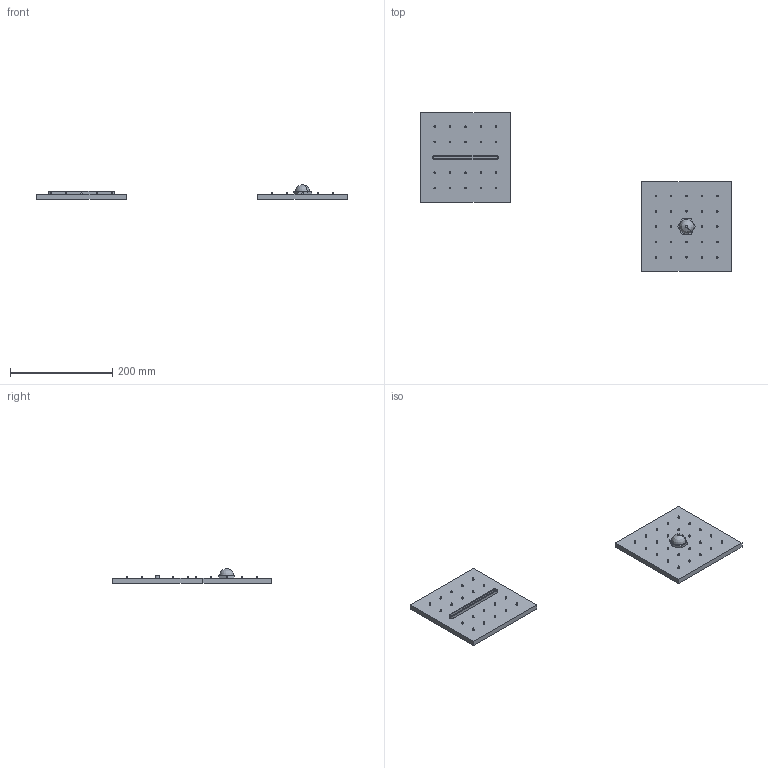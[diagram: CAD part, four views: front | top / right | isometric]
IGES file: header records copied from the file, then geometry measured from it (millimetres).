
Global section: file name: D:\Desktop\GIOVANNI\SCHEDE PRODOTTO\SOFFIONI\MULTISHOWER\3D\MOMA DESIGN_SOFFIONI_MULTI SHOWER_OPTIONAL.igs; native system: Rhinoceros ( Jan 17 2018 ); preprocessor: Trout Lake IGES 012 Jan 17 2018; date: 230523.153449; units: millimetre
Bounding box: 607.01 x 310.4 x 28.68 mm (x, y, z)
Surface area: 147100.1 mm2 (no closed solid volume)
Topology: 0 solids, 0 shells, 343 faces, 2168 edges, 2034 vertices
Faces by surface type: bspline 343
